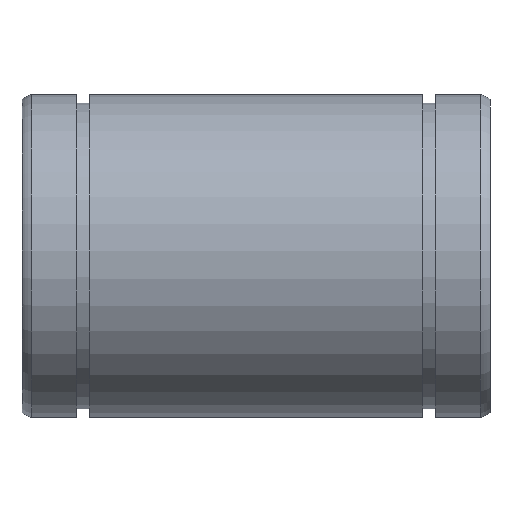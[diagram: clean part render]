
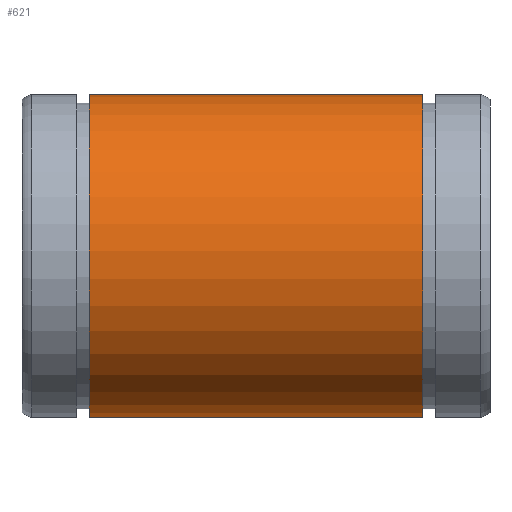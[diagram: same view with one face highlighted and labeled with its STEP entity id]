
A CAD part, front view. The second image highlights one B-rep face of the part: STEP entity #621.
In plain terms, the highlighted cylindrical face has radius 23.5 mm (diameter 47 mm), a partial arc.
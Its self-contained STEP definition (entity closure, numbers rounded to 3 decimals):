
#180=CARTESIAN_POINT('',(9.8,1.5,-23.452));
#181=VERTEX_POINT('',#180);
#188=CARTESIAN_POINT('',(58.2,1.5,-23.452));
#189=VERTEX_POINT('',#188);
#190=CARTESIAN_POINT('',(58.2,1.5,-23.452));
#191=DIRECTION('',(-1.0,0.0,0.0));
#192=VECTOR('',#191,48.4);
#193=LINE('',#190,#192);
#194=EDGE_CURVE('',#189,#181,#193,.T.);
#236=CARTESIAN_POINT('',(58.2,-1.5,-23.452));
#237=VERTEX_POINT('',#236);
#244=CARTESIAN_POINT('',(9.8,-1.5,-23.452));
#245=VERTEX_POINT('',#244);
#246=CARTESIAN_POINT('',(9.8,-1.5,-23.452));
#247=DIRECTION('',(1.0,0.0,0.0));
#248=VECTOR('',#247,48.4);
#249=LINE('',#246,#248);
#250=EDGE_CURVE('',#245,#237,#249,.T.);
#594=CARTESIAN_POINT('',(58.2,0.0,0.));
#595=DIRECTION('',(-1.0,0.0,0.0));
#596=DIRECTION('',(0.0,0.0,1.0));
#597=AXIS2_PLACEMENT_3D('',#594,#595,#596);
#598=CIRCLE('',#597,23.5);
#599=EDGE_CURVE('',#237,#189,#598,.T.);
#604=CARTESIAN_POINT('',(34.,0.0,0.));
#605=DIRECTION('',(-1.0,0.0,0.));
#606=DIRECTION('',(0.0,0.0,1.0));
#607=AXIS2_PLACEMENT_3D('',#604,#605,#606);
#608=CYLINDRICAL_SURFACE('',#607,23.5);
#609=ORIENTED_EDGE('',*,*,#250,.T.);
#610=ORIENTED_EDGE('',*,*,#599,.T.);
#611=ORIENTED_EDGE('',*,*,#194,.T.);
#612=CARTESIAN_POINT('',(9.8,0.0,0.));
#613=DIRECTION('',(-1.0,0.0,0.0));
#614=DIRECTION('',(0.0,0.0,1.0));
#615=AXIS2_PLACEMENT_3D('',#612,#613,#614);
#616=CIRCLE('',#615,23.5);
#617=EDGE_CURVE('',#245,#181,#616,.T.);
#618=ORIENTED_EDGE('',*,*,#617,.F.);
#619=EDGE_LOOP('',(#609,#610,#611,#618));
#620=FACE_OUTER_BOUND('',#619,.T.);
#621=ADVANCED_FACE('',(#620),#608,.T.);
